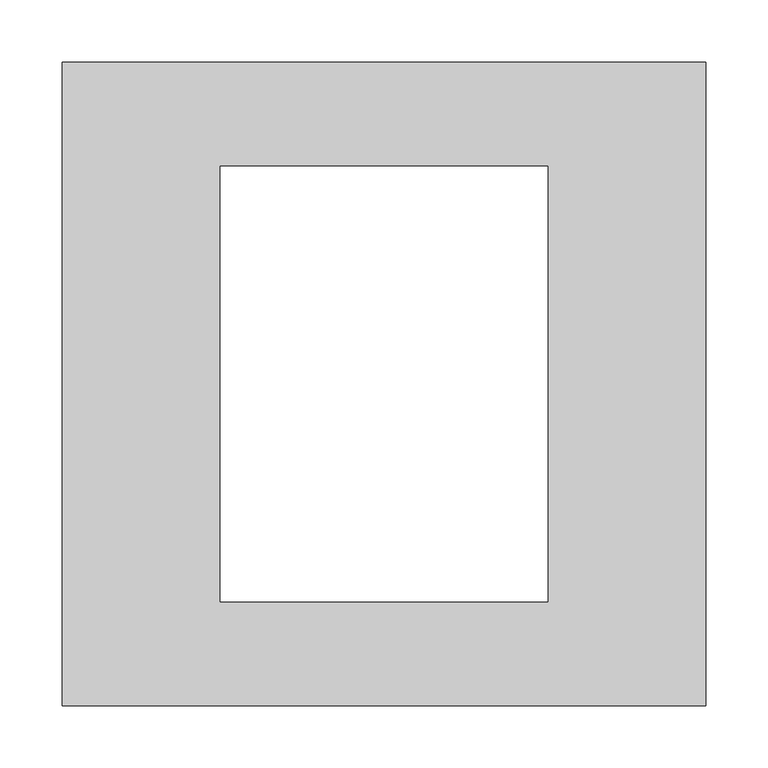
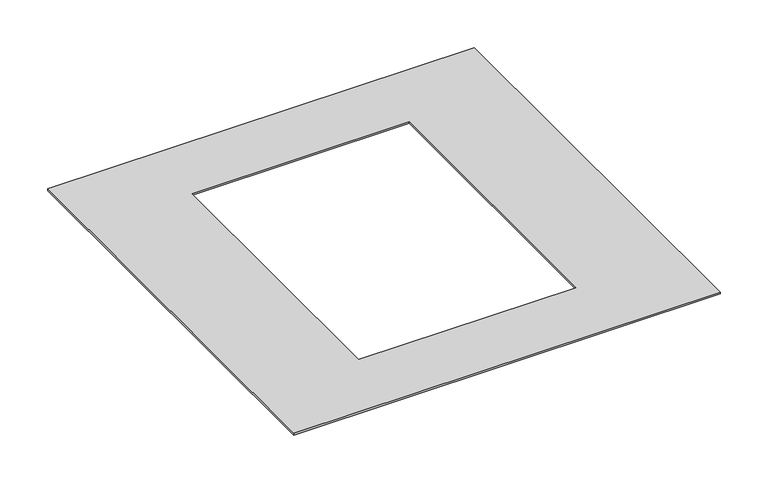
"""IFC4 building model written with IfcOpenShell, lengths in millimetres: proxy geometry, Крышка опалубки для установки лючка In-liner Front 12 модулей : Крышка опалубки для установки лючка In-liner Front 12 модулей."""

from ifc_helpers import new_model, si_unit, origin, origin_with_axes, place, context, project, spatial, polyline, outline, extrude, source, transform, mapped, element, save


def electrical_fixtures_e65b3ef2(model_context):
    return source(origin(), model_context, "Body", "SweptSolid", [
        extrude(outline(polyline([(257.5, 257.5), (257.5, -257.5), (-257.5, -257.5), (-257.5, 257.5), (257.5, 257.5)]), holes=[polyline([(131.0, 174.5), (-131.0, 174.5), (-131.0, -174.5), (131.0, -174.5), (131.0, 174.5)])]), origin_with_axes(), (0.0, 0.0, 1.0), 2.0),
    ])


if __name__ == "__main__":
    model = new_model("IFC4")
    model_context = context("Model", 3, world=origin())
    ifc_project = project(units=[si_unit("LENGTHUNIT", "METRE", prefix="MILLI")], contexts=[model_context])
    site = spatial("IfcSite", under=ifc_project)
    building = spatial("IfcBuilding", under=site)
    placement = place(None, origin())
    electrical_fixtures_shape = electrical_fixtures_e65b3ef2(model_context)
    element("IfcBuildingElementProxy", 1, Name="Крышка опалубки для установки лючка In-liner Front 12 модулей : Крышка опалубки для установки лючка In-liner Front 12 модулей", ObjectType="Крышка опалубки для установки лючка In-liner Front 12 модулей : Крышка опалубки для установки лючка In-liner Front 12 модулей", at=placement, inside=building, context=model_context, shape_type="MappedRepresentation", body=[
        mapped(electrical_fixtures_shape, transform((0.0, 0.0, 0.0), x_axis=(1.0, 0.0, 0.0), y_axis=(0.0, 1.0, 0.0), z_axis=(0.0, 0.0, 1.0))),
    ])
    save(model, "model.ifc")
